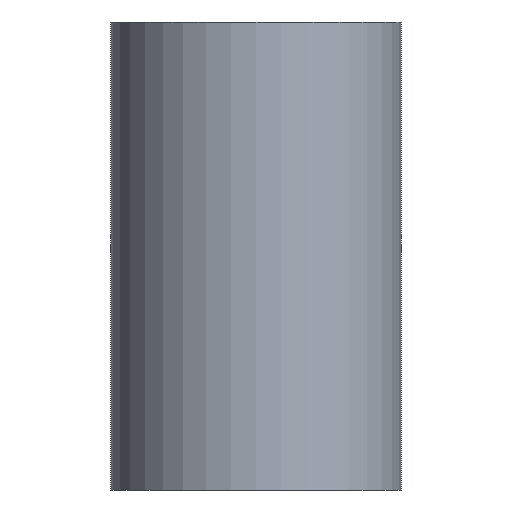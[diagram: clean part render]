
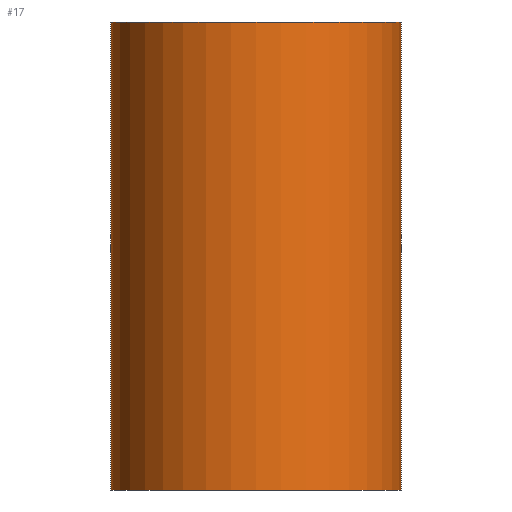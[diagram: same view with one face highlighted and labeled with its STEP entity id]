
A CAD part, front view. The second image highlights one B-rep face of the part: STEP entity #17.
In plain terms, the highlighted cylindrical face has radius 2.7 mm (diameter 5.4 mm), a full revolution.
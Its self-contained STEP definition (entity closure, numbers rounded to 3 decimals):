
#17 = ADVANCED_FACE('',(#18),#31,.T.);
#18 = FACE_BOUND('',#19,.T.);
#19 = EDGE_LOOP('',(#20,#54,#77,#104));
#20 = ORIENTED_EDGE('',*,*,#21,.F.);
#21 = EDGE_CURVE('',#22,#22,#24,.T.);
#22 = VERTEX_POINT('',#23);
#23 = CARTESIAN_POINT('',(2.7,0.,8.7));
#24 = SURFACE_CURVE('',#25,(#30,#42),.PCURVE_S1.);
#25 = CIRCLE('',#26,2.7);
#26 = AXIS2_PLACEMENT_3D('',#27,#28,#29);
#27 = CARTESIAN_POINT('',(0.,0.,8.7));
#28 = DIRECTION('',(0.,0.,1.));
#29 = DIRECTION('',(1.,0.,-0.));
#30 = PCURVE('',#31,#36);
#31 = CYLINDRICAL_SURFACE('',#32,2.7);
#32 = AXIS2_PLACEMENT_3D('',#33,#34,#35);
#33 = CARTESIAN_POINT('',(0.,0.,0.));
#34 = DIRECTION('',(0.,0.,1.));
#35 = DIRECTION('',(1.,0.,-0.));
#36 = DEFINITIONAL_REPRESENTATION('',(#37),#41);
#37 = LINE('',#38,#39);
#38 = CARTESIAN_POINT('',(0.,8.7));
#39 = VECTOR('',#40,1.);
#40 = DIRECTION('',(1.,0.));
#41 = ( GEOMETRIC_REPRESENTATION_CONTEXT(2) 
PARAMETRIC_REPRESENTATION_CONTEXT() REPRESENTATION_CONTEXT('2D SPACE',''
  ) );
#42 = PCURVE('',#43,#48);
#43 = PLANE('',#44);
#44 = AXIS2_PLACEMENT_3D('',#45,#46,#47);
#45 = CARTESIAN_POINT('',(0.,0.,8.7));
#46 = DIRECTION('',(0.,0.,1.));
#47 = DIRECTION('',(1.,0.,-0.));
#48 = DEFINITIONAL_REPRESENTATION('',(#49),#53);
#49 = CIRCLE('',#50,2.7);
#50 = AXIS2_PLACEMENT_2D('',#51,#52);
#51 = CARTESIAN_POINT('',(0.,0.));
#52 = DIRECTION('',(1.,0.));
#53 = ( GEOMETRIC_REPRESENTATION_CONTEXT(2) 
PARAMETRIC_REPRESENTATION_CONTEXT() REPRESENTATION_CONTEXT('2D SPACE',''
  ) );
#54 = ORIENTED_EDGE('',*,*,#55,.F.);
#55 = EDGE_CURVE('',#56,#22,#58,.T.);
#56 = VERTEX_POINT('',#57);
#57 = CARTESIAN_POINT('',(2.7,0.,0.));
#58 = SEAM_CURVE('',#59,(#63,#70),.PCURVE_S1.);
#59 = LINE('',#60,#61);
#60 = CARTESIAN_POINT('',(2.7,0.,0.));
#61 = VECTOR('',#62,1.);
#62 = DIRECTION('',(0.,0.,1.));
#63 = PCURVE('',#31,#64);
#64 = DEFINITIONAL_REPRESENTATION('',(#65),#69);
#65 = LINE('',#66,#67);
#66 = CARTESIAN_POINT('',(6.283,-0.));
#67 = VECTOR('',#68,1.);
#68 = DIRECTION('',(0.,1.));
#69 = ( GEOMETRIC_REPRESENTATION_CONTEXT(2) 
PARAMETRIC_REPRESENTATION_CONTEXT() REPRESENTATION_CONTEXT('2D SPACE',''
  ) );
#70 = PCURVE('',#31,#71);
#71 = DEFINITIONAL_REPRESENTATION('',(#72),#76);
#72 = LINE('',#73,#74);
#73 = CARTESIAN_POINT('',(0.,-0.));
#74 = VECTOR('',#75,1.);
#75 = DIRECTION('',(0.,1.));
#76 = ( GEOMETRIC_REPRESENTATION_CONTEXT(2) 
PARAMETRIC_REPRESENTATION_CONTEXT() REPRESENTATION_CONTEXT('2D SPACE',''
  ) );
#77 = ORIENTED_EDGE('',*,*,#78,.T.);
#78 = EDGE_CURVE('',#56,#56,#79,.T.);
#79 = SURFACE_CURVE('',#80,(#85,#92),.PCURVE_S1.);
#80 = CIRCLE('',#81,2.7);
#81 = AXIS2_PLACEMENT_3D('',#82,#83,#84);
#82 = CARTESIAN_POINT('',(0.,0.,0.));
#83 = DIRECTION('',(0.,0.,1.));
#84 = DIRECTION('',(1.,0.,-0.));
#85 = PCURVE('',#31,#86);
#86 = DEFINITIONAL_REPRESENTATION('',(#87),#91);
#87 = LINE('',#88,#89);
#88 = CARTESIAN_POINT('',(0.,0.));
#89 = VECTOR('',#90,1.);
#90 = DIRECTION('',(1.,0.));
#91 = ( GEOMETRIC_REPRESENTATION_CONTEXT(2) 
PARAMETRIC_REPRESENTATION_CONTEXT() REPRESENTATION_CONTEXT('2D SPACE',''
  ) );
#92 = PCURVE('',#93,#98);
#93 = PLANE('',#94);
#94 = AXIS2_PLACEMENT_3D('',#95,#96,#97);
#95 = CARTESIAN_POINT('',(0.,0.,0.));
#96 = DIRECTION('',(0.,0.,1.));
#97 = DIRECTION('',(1.,0.,-0.));
#98 = DEFINITIONAL_REPRESENTATION('',(#99),#103);
#99 = CIRCLE('',#100,2.7);
#100 = AXIS2_PLACEMENT_2D('',#101,#102);
#101 = CARTESIAN_POINT('',(0.,0.));
#102 = DIRECTION('',(1.,0.));
#103 = ( GEOMETRIC_REPRESENTATION_CONTEXT(2) 
PARAMETRIC_REPRESENTATION_CONTEXT() REPRESENTATION_CONTEXT('2D SPACE',''
  ) );
#104 = ORIENTED_EDGE('',*,*,#55,.T.);
